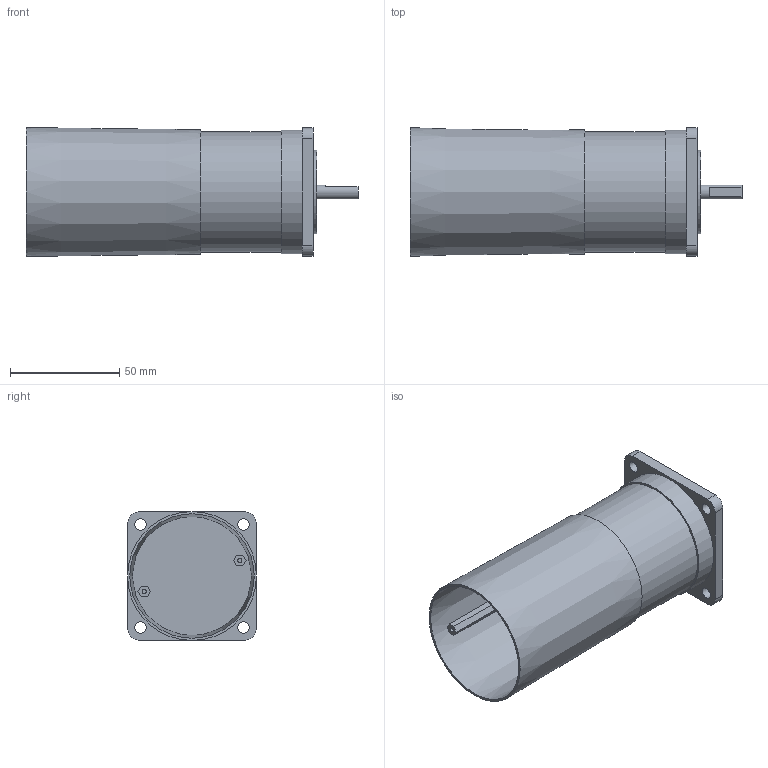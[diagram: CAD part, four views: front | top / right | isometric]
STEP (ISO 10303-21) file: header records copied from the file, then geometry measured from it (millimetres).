
FILE_DESCRIPTION( ( 'STEP AP203' ), '1' );
FILE_NAME( 'T:/CAD/JVL/2D_Mac050-141/MAC095-A1.stp', '2006-01-13T08:01:08', ( ' ' ), ( ' ' ), 'XStep 1.0', ' ', ' ' );
FILE_SCHEMA( ( 'CONFIG_CONTROL_DESIGN) ( )' ) );
Length unit declared in the file: metre
Products named in the file (1): 1
Bounding box: 152.07 x 59 x 59 mm (x, y, z)
Volume: 162441.4 mm3; surface area: 47398.7 mm2
Topology: 1 solids, 1 shells, 46 faces, 107 edges, 73 vertices
Faces by surface type: plane 30, cylinder 14, cone 2
Full cylindrical faces by diameter (mm): 2.013 x2, 5.2 x4, 6.35 x1, 38.1 x1, 55 x1, 56.7 x1
Entity records: 1270 total; most frequent: DIRECTION 216, CARTESIAN_POINT 203, ORIENTED_EDGE 178, EDGE_CURVE 89, AXIS2_PLACEMENT_3D 80, EDGE_LOOP 76, VERTEX_POINT 67, FACE_OUTER_BOUND 56
